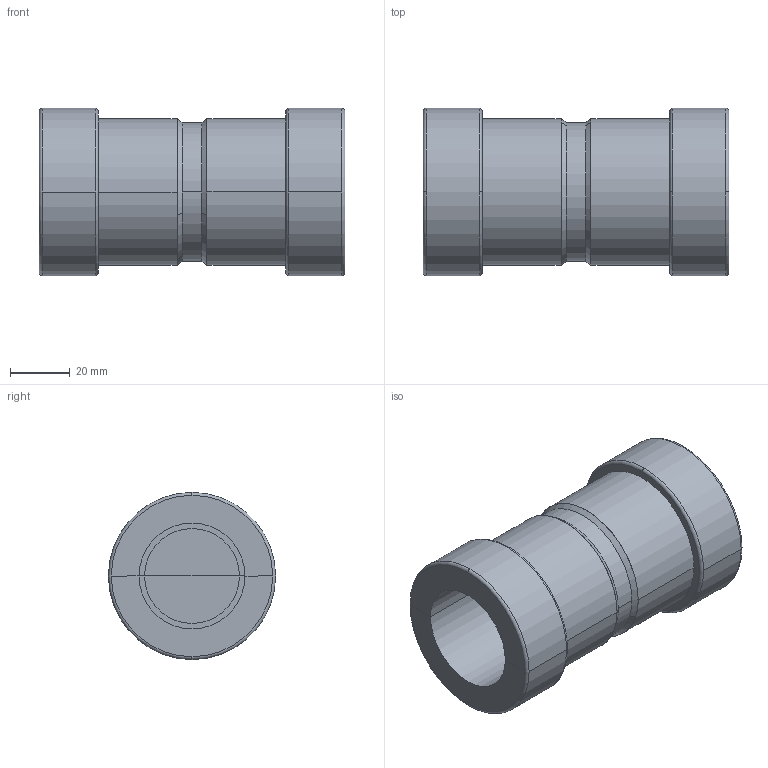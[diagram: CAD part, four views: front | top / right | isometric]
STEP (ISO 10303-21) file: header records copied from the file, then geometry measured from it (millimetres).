
FILE_DESCRIPTION (( 'STEP AP203' ), '1' );
FILE_NAME ('Viega_MegaPress FKM_Coupling, Transition 5915ZL - 1-1_4in.STEP', '2025-02-21T22:22:30', ( '' ), ( '' ), 'SwSTEP 2.0', 'SolidWorks 2020', '' );
FILE_SCHEMA (( 'CONFIG_CONTROL_DESIGN' ));
Length unit declared in the file: millimetre
Products named in the file (1): Viega_MegaPress FKM_Coupling, Transition 5915ZL - 1-1_4in
Bounding box: 102.4 x 56 x 56 mm (x, y, z)
Volume: 130504.2 mm3; surface area: 40471.5 mm2
Topology: 5 solids, 5 shells, 50 faces, 116 edges, 72 vertices
Faces by surface type: plane 20, cylinder 18, torus 8, cone 4
Entity records: 1529 total; most frequent: DIRECTION 298, CARTESIAN_POINT 239, ORIENTED_EDGE 232, AXIS2_PLACEMENT_3D 131, EDGE_CURVE 116, CIRCLE 80, VERTEX_POINT 72, EDGE_LOOP 50
